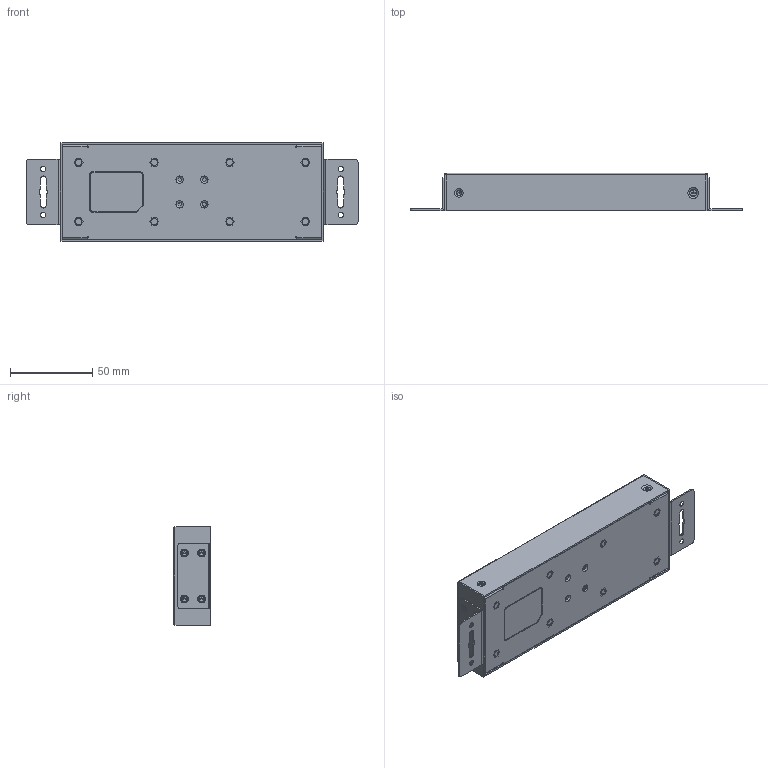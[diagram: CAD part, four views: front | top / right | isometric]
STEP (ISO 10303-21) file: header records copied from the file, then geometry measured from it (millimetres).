
FILE_DESCRIPTION(/* description */ (''),/* implementation_level */ '2;1');
FILE_NAME(/* name */ 'GM-HU310CA-DW_Model_JWV1.step',/* time_stamp */ '2025-02-04T15:39:05-05:00',/* author */ (''),/* organization */ (''),/* preprocessor_version */ 'ST-DEVELOPER v20',/* originating_system */ 'Autodesk Translation Framework v13.20.0.188',/* authorisation */ '');
FILE_SCHEMA (('AUTOMOTIVE_DESIGN { 1 0 10303 214 3 1 1 }'));
Length unit declared in the file: millimetre
Products named in the file (8): HT2-CA46T_ASM; HT2CA46T-BOT-F-B_ASM; HT2CA46T-BOT-F-B; SCREW-POST-3; HT2CA46T-TOP-F-B; HUBPA30-38-F-B; FM3X3_8CCRO; FM3X3_8CCRO-A
Assembly tree (25 placements, depth 3):
  HT2-CA46T_ASM
    HT2CA46T-BOT-F-B_ASM
      HT2CA46T-BOT-F-B
      SCREW-POST-3  x8
    HT2CA46T-TOP-F-B
    HUBPA30-38-F-B  x2
    FM3X3_8CCRO  x8
    FM3X3_8CCRO-A  x4
Bounding box: 202 x 22.7 x 60 mm (x, y, z)
Volume: 31472.5 mm3; surface area: 66977.2 mm2
Topology: 28 solids, 39 shells, 871 faces, 2155 edges, 1374 vertices
Faces by surface type: plane 482, cylinder 229, bspline 112, cone 32, torus 16
Full cylindrical faces by diameter (mm): 1.6 x7, 2.5 x24, 2.6 x16, 3 x22, 3.2 x14, 3.5 x8, 4 x8, 4.1 x8, 4.2 x8, 4.5 x18
Entity records: 18682 total; most frequent: CARTESIAN_POINT 7127, DIRECTION 2402, ORIENTED_EDGE 2256, EDGE_CURVE 1132, AXIS2_PLACEMENT_3D 867, VERTEX_POINT 709, LINE 668, VECTOR 668
